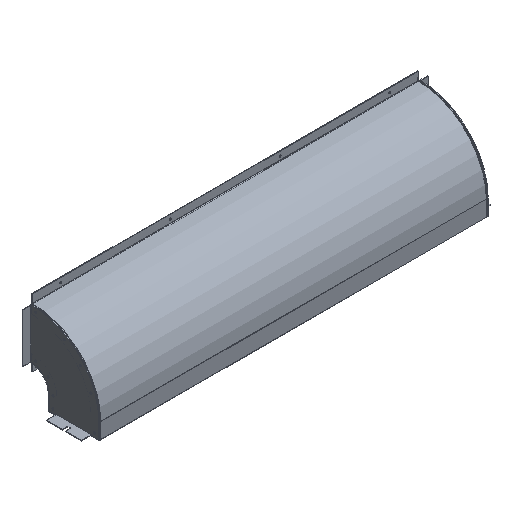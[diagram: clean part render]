
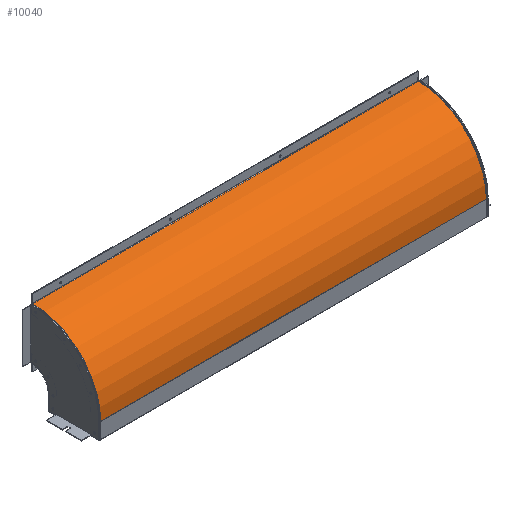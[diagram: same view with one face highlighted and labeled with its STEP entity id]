
A CAD part, isometric view. The second image highlights one B-rep face of the part: STEP entity #10040.
In plain terms, the highlighted cylindrical face has radius 124.5 mm (diameter 249 mm), a partial arc.
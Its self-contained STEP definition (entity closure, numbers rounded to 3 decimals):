
#2930=CARTESIAN_POINT('',(353.2,-47.5,505.5));
#2940=VERTEX_POINT('',#2930);
#5050=CARTESIAN_POINT('',(-350.8,-47.5,505.5));
#5060=VERTEX_POINT('',#5050);
#6680=CARTESIAN_POINT('',(-350.8,76.6,
629.999));
#6690=VERTEX_POINT('',#6680);
#6740=CARTESIAN_POINT('',(-350.8,77.,505.5));
#6750=DIRECTION('',(1.,0.,0.));
#6760=DIRECTION('',(0.,-1.,0.));
#6770=AXIS2_PLACEMENT_3D('',#6740,#6750,#6760);
#6780=CIRCLE('',#6770,124.5);
#6790=EDGE_CURVE('',#6690,#5060,#6780,.T.);
#7950=CARTESIAN_POINT('',(353.2,76.6,
629.999));
#7960=VERTEX_POINT('',#7950);
#9530=CARTESIAN_POINT('',(353.2,77.,505.5));
#9540=DIRECTION('',(1.,0.,0.));
#9550=DIRECTION('',(0.,-1.,0.));
#9560=AXIS2_PLACEMENT_3D('',#9530,#9540,#9550);
#9570=CIRCLE('',#9560,124.5);
#9580=EDGE_CURVE('',#7960,#2940,#9570,.T.);
#9650=CARTESIAN_POINT('',(353.7,77.,505.5));
#9660=DIRECTION('',(1.,0.,0.));
#9670=DIRECTION('',(0.,1.,0.));
#9680=AXIS2_PLACEMENT_3D('',#9650,#9660,#9670);
#9690=CYLINDRICAL_SURFACE('',#9680,124.5);
#9700=ORIENTED_EDGE('',*,*,#9580,.F.);
#9710=CARTESIAN_POINT('',(-360.656,-47.5,505.5));
#9720=DIRECTION('',(-1.,0.,0.));
#9730=VECTOR('',#9720,1.);
#9740=LINE('',#9710,#9730);
#9750=EDGE_CURVE('',#2940,#5060,#9740,.T.);
#9760=ORIENTED_EDGE('',*,*,#9750,.F.);
#9770=ORIENTED_EDGE('',*,*,#6790,.T.);
#9780=CARTESIAN_POINT('',(-350.8,77.,505.5));
#9790=DIRECTION('',(1.,0.,0.));
#9800=DIRECTION('',(0.,1.,0.));
#9810=AXIS2_PLACEMENT_3D('',#9780,#9790,#9800);
#9820=CIRCLE('',#9810,124.5);
#9830=CARTESIAN_POINT('',(-350.8,76.601,629.999));
#9840=VERTEX_POINT('',#9830);
#9850=EDGE_CURVE('',#9840,#6690,#9820,.T.);
#9860=ORIENTED_EDGE('',*,*,#9850,.T.);
#9870=CARTESIAN_POINT('',(353.7,76.601,629.999));
#9880=DIRECTION('',(1.,0.,0.));
#9890=VECTOR('',#9880,1.);
#9900=LINE('',#9870,#9890);
#9910=CARTESIAN_POINT('',(353.2,76.601,629.999));
#9920=VERTEX_POINT('',#9910);
#9930=EDGE_CURVE('',#9840,#9920,#9900,.T.);
#9940=ORIENTED_EDGE('',*,*,#9930,.F.);
#9950=CARTESIAN_POINT('',(353.2,77.,505.5));
#9960=DIRECTION('',(1.,0.,0.));
#9970=DIRECTION('',(0.,1.,0.));
#9980=AXIS2_PLACEMENT_3D('',#9950,#9960,#9970);
#9990=CIRCLE('',#9980,124.5);
#10000=EDGE_CURVE('',#9920,#7960,#9990,.T.);
#10010=ORIENTED_EDGE('',*,*,#10000,.F.);
#10020=EDGE_LOOP('',(#10010,#9940,#9860,#9770,#9760,#9700));
#10030=FACE_OUTER_BOUND('',#10020,.T.);
#10040=ADVANCED_FACE('',(#10030),#9690,.T.);
